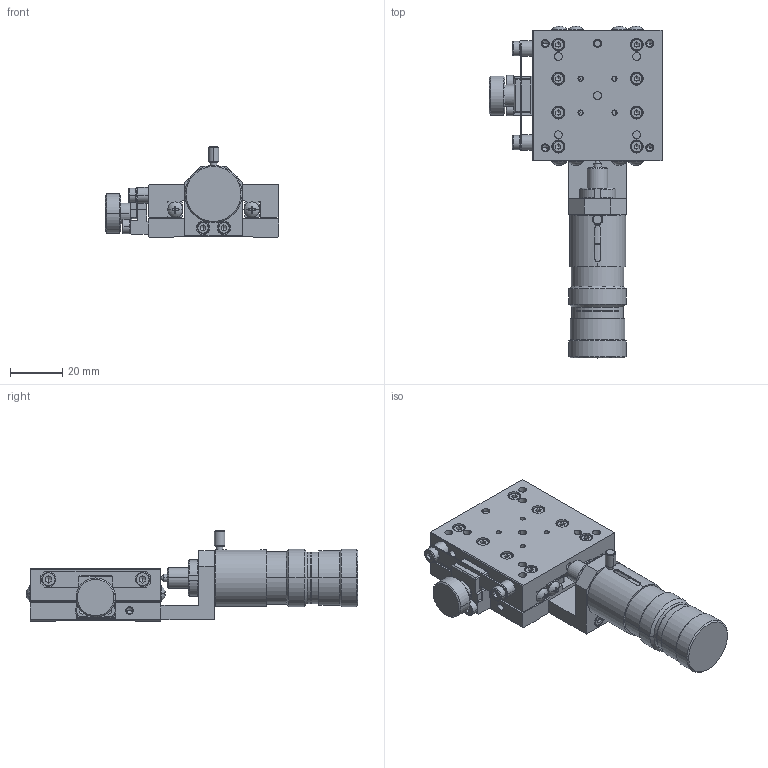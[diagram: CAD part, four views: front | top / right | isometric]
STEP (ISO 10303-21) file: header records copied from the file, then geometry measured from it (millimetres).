
FILE_DESCRIPTION (( 'STEP AP214' ), '1' );
FILE_NAME ('XM05A-C3-R-CL.STEP', '2007-08-07T00:12:47', ( ' ' ), ( ' ' ), 'SwSTEP 2.0', 'SolidWorks 2006052', '' );
FILE_SCHEMA (( 'AUTOMOTIVE_DESIGN' ));
Length unit declared in the file: millimetre
Products named in the file (5): 001010-1011(3D)-Part-2-3; 001010-1011(3D)-Part-1-3; 001010-1011(3D)-3; 001010-1023(3D)-7; XM05A-C3-R-CL
Assembly tree (4 placements, depth 3):
  XM05A-C3-R-CL
    001010-1011(3D)-3
      001010-1011(3D)-Part-1-3
      001010-1011(3D)-Part-2-3
    001010-1023(3D)-7
Bounding box: 66.5 x 127.18 x 34.5 mm (x, y, z)
Volume: 68112.6 mm3; surface area: 36714.2 mm2
Topology: 3 solids, 45 shells, 1637 faces, 3768 edges, 2239 vertices
Faces by surface type: plane 741, cylinder 501, cone 290, torus 88, sphere 17
Entity records: 46189 total; most frequent: DIRECTION 8452, CARTESIAN_POINT 8448, ORIENTED_EDGE 7332, EDGE_CURVE 3666, AXIS2_PLACEMENT_3D 3275, VERTEX_POINT 2239, VECTOR 1902, LINE 1902
